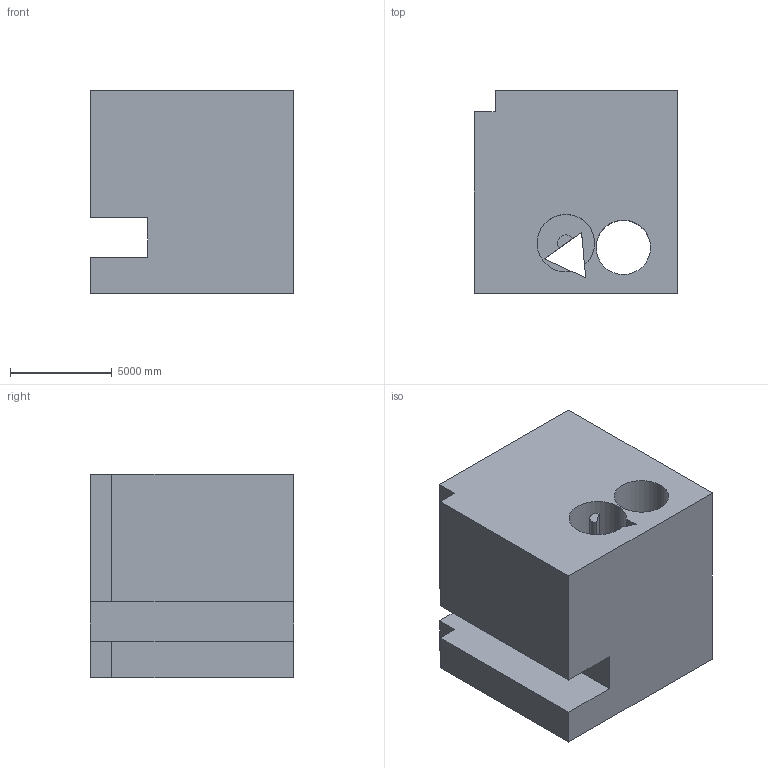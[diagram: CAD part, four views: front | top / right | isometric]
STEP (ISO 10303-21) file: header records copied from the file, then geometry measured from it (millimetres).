
FILE_DESCRIPTION (( 'STEP AP203' ), '1' );
FILE_NAME ('1422.STEP', '2022-08-18T14:22:55', ( 'user' ), ( '' ), 'SwSTEP 2.0', 'SolidWorks 2021', '' );
FILE_SCHEMA (( 'CONFIG_CONTROL_DESIGN' ));
Length unit declared in the file: centimetre
Products named in the file (1): 1422
Bounding box: 10000 x 10000 x 10000 mm (x, y, z)
Volume: 836124371016 mm3; surface area: 804273114.4 mm2
Topology: 1 solids, 1 shells, 25 faces, 69 edges, 46 vertices
Faces by surface type: plane 19, cylinder 6
Entity records: 880 total; most frequent: CARTESIAN_POINT 141, ORIENTED_EDGE 138, DIRECTION 133, EDGE_CURVE 69, VECTOR 57, LINE 57, VERTEX_POINT 46, AXIS2_PLACEMENT_3D 38
